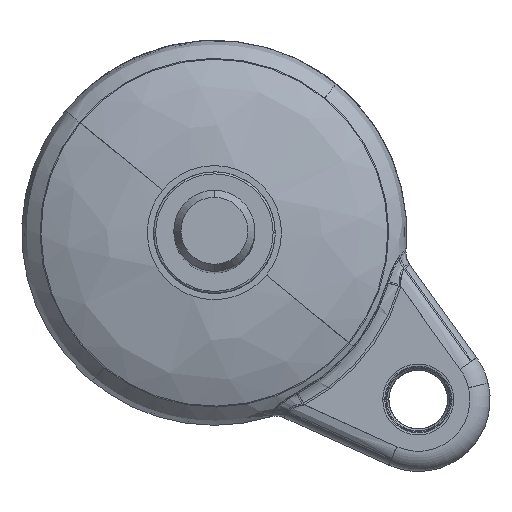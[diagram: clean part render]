
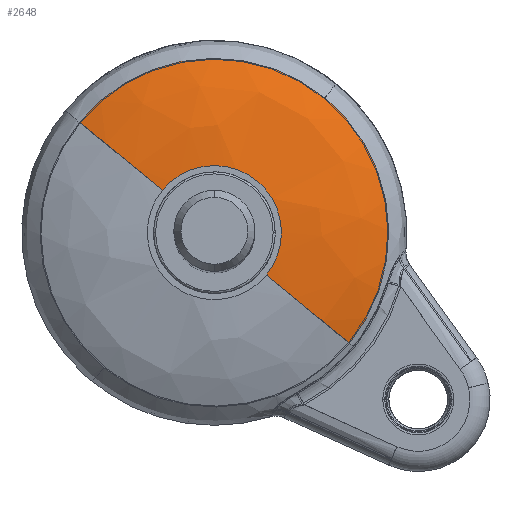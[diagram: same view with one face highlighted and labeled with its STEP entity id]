
A CAD part, top view. The second image highlights one B-rep face of the part: STEP entity #2648.
In plain terms, the highlighted free-form (B-spline) face has degree [2, 2] with [7, 5] control points.
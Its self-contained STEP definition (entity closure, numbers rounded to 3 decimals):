
#545 = CARTESIAN_POINT ( 'NONE',  ( 0., 0., -4.328 ) ) ;
#725 = CARTESIAN_POINT ( 'NONE',  ( 69.724, -57.068, -62. ) ) ;
#728 = DIRECTION ( 'NONE',  ( -0.774, 0.633, 0. ) ) ;
#776 = CARTESIAN_POINT ( 'NONE',  ( 126.792, 12.656, -62. ) ) ;
#860 = CARTESIAN_POINT ( 'NONE',  ( 23.606, -19.321, -2. ) ) ;
#1285 = DIRECTION ( 'NONE',  ( 0.774, -0.633, 0. ) ) ;
#1422 = CARTESIAN_POINT ( 'NONE',  ( -23.606, 19.321, -2. ) ) ;
#1471 = CARTESIAN_POINT ( 'NONE',  ( -33.297, 27.253, -8.158 ) ) ;
#1522 = CARTESIAN_POINT ( 'NONE',  ( 57.542, 5.744, -131.407 ) ) ;
#1548 =( BOUNDED_CURVE ( )  B_SPLINE_CURVE ( 2, ( #5848, #860, #4304 ),
 .UNSPECIFIED., .F., .T. ) 
 B_SPLINE_CURVE_WITH_KNOTS ( ( 3, 3 ),
 ( -0.198, -0.078 ),
 .UNSPECIFIED. ) 
 CURVE ( )  GEOMETRIC_REPRESENTATION_ITEM ( )  RATIONAL_B_SPLINE_CURVE ( ( 0.911, 0.899, 0.934 ) ) 
 REPRESENTATION_ITEM ( '' )  );
#1639 = CARTESIAN_POINT ( 'NONE',  ( 41.484, 50.683, -96.703 ) ) ;
#2190 = CARTESIAN_POINT ( 'NONE',  ( 0., 0., -4.328 ) ) ;
#2249 = CARTESIAN_POINT ( 'NONE',  ( 25.899, 31.643, 7.407 ) ) ;
#2293 = VERTEX_POINT ( 'NONE', #4870 ) ;
#2535 = CARTESIAN_POINT ( 'NONE',  ( 0., 0., -119.672 ) ) ;
#2589 = CARTESIAN_POINT ( 'NONE',  ( 92.167, 9.2, -27.297 ) ) ;
#2648 = ADVANCED_FACE ( 'NONE', ( #9908 ), #3551, .T. ) ;
#2678 = CIRCLE ( 'NONE', #2843, 43.028 ) ;
#2843 = AXIS2_PLACEMENT_3D ( 'NONE', #7332, #9046, #1285 ) ;
#2987 = CARTESIAN_POINT ( 'NONE',  ( 0., 0., -4.328 ) ) ;
#3043 = CARTESIAN_POINT ( 'NONE',  ( 0., 0., -4.328 ) ) ;
#3094 = CARTESIAN_POINT ( 'NONE',  ( 31.643, -25.899, 7.407 ) ) ;
#3318 = CARTESIAN_POINT ( 'NONE',  ( 31.643, -25.899, -131.407 ) ) ;
#3375 = CARTESIAN_POINT ( 'NONE',  ( 0., 0., -119.672 ) ) ;
#3421 = CARTESIAN_POINT ( 'NONE',  ( -12.807, 10.483, -2. ) ) ;
#3466 = EDGE_CURVE ( 'NONE', #9659, #2293, #6919, .T. ) ;
#3551 =( BOUNDED_SURFACE ( )  B_SPLINE_SURFACE ( 2, 2, ( 
 ( #545, #2987, #3043, #2190, #10867 ),
 ( #3094, #10015, #2249, #3987, #10313 ),
 ( #7565, #2589, #7677, #4222, #9403 ),
 ( #725, #776, #4961, #11163, #6719 ),
 ( #9514, #6665, #1639, #5023, #10142 ),
 ( #3318, #1522, #8477, #8412, #10260 ),
 ( #2535, #8649, #5937, #6779, #3375 ) ),
 .UNSPECIFIED., .F., .F., .T. ) 
 B_SPLINE_SURFACE_WITH_KNOTS ( ( 3, 2, 2, 3 ),
 ( 3, 2, 3 ),
 ( 0., 0.333, 0.667, 1. ),
 ( 0., 0.25, 0.5 ),
 .UNSPECIFIED. ) 
 GEOMETRIC_REPRESENTATION_ITEM ( )  RATIONAL_B_SPLINE_SURFACE ( (
 ( 1., 0.707, 1., 0.707, 1.),
 ( 0.816, 0.577, 0.816, 0.577, 0.816),
 ( 1., 0.707, 1., 0.707, 1.),
 ( 0.816, 0.577, 0.816, 0.577, 0.816),
 ( 1., 0.707, 1., 0.707, 1.),
 ( 0.816, 0.577, 0.816, 0.577, 0.816),
 ( 1., 0.707, 1., 0.707, 1.) ) ) 
 REPRESENTATION_ITEM ( '' )  SURFACE ( )  );
#3699 = ORIENTED_EDGE ( 'NONE', *, *, #8309, .F. ) ;
#3907 = VERTEX_POINT ( 'NONE', #8783 ) ;
#3909 =( BOUNDED_CURVE ( )  B_SPLINE_CURVE ( 2, ( #1471, #1422, #5725 ),
 .UNSPECIFIED., .F., .T. ) 
 B_SPLINE_CURVE_WITH_KNOTS ( ( 3, 3 ),
 ( -0.198, -0.078 ),
 .UNSPECIFIED. ) 
 CURVE ( )  GEOMETRIC_REPRESENTATION_ITEM ( )  RATIONAL_B_SPLINE_CURVE ( ( 0.911, 0.899, 0.934 ) ) 
 REPRESENTATION_ITEM ( '' )  );
#3987 = CARTESIAN_POINT ( 'NONE',  ( -5.743, 57.542, 7.407 ) ) ;
#4222 = CARTESIAN_POINT ( 'NONE',  ( -9.199, 92.167, -27.297 ) ) ;
#4304 = CARTESIAN_POINT ( 'NONE',  ( 12.807, -10.482, -2. ) ) ;
#4731 = CARTESIAN_POINT ( 'NONE',  ( -33.297, 27.253, -8.158 ) ) ;
#4870 = CARTESIAN_POINT ( 'NONE',  ( 12.807, -10.482, -2. ) ) ;
#4961 = CARTESIAN_POINT ( 'NONE',  ( 57.068, 69.724, -62. ) ) ;
#5023 = CARTESIAN_POINT ( 'NONE',  ( -9.199, 92.167, -96.703 ) ) ;
#5133 = DIRECTION ( 'NONE',  ( 0., 0., -1. ) ) ;
#5295 = AXIS2_PLACEMENT_3D ( 'NONE', #10198, #5133, #728 ) ;
#5649 = ORIENTED_EDGE ( 'NONE', *, *, #7338, .T. ) ;
#5725 = CARTESIAN_POINT ( 'NONE',  ( -12.807, 10.483, -2. ) ) ;
#5848 = CARTESIAN_POINT ( 'NONE',  ( 33.297, -27.253, -8.158 ) ) ;
#5937 = CARTESIAN_POINT ( 'NONE',  ( 0., 0., -119.672 ) ) ;
#6665 = CARTESIAN_POINT ( 'NONE',  ( 92.167, 9.2, -96.703 ) ) ;
#6719 = CARTESIAN_POINT ( 'NONE',  ( -69.724, 57.068, -62. ) ) ;
#6779 = CARTESIAN_POINT ( 'NONE',  ( 0., 0., -119.672 ) ) ;
#6919 = CIRCLE ( 'NONE', #5295, 16.55 ) ;
#7135 = ORIENTED_EDGE ( 'NONE', *, *, #8680, .F. ) ;
#7192 = EDGE_LOOP ( 'NONE', ( #7135, #3699, #5649, #10544 ) ) ;
#7332 = CARTESIAN_POINT ( 'NONE',  ( 0., 0., -8.158 ) ) ;
#7338 = EDGE_CURVE ( 'NONE', #9315, #9659, #3909, .T. ) ;
#7565 = CARTESIAN_POINT ( 'NONE',  ( 50.683, -41.484, -27.297 ) ) ;
#7677 = CARTESIAN_POINT ( 'NONE',  ( 41.484, 50.683, -27.297 ) ) ;
#8309 = EDGE_CURVE ( 'NONE', #9315, #3907, #2678, .T. ) ;
#8412 = CARTESIAN_POINT ( 'NONE',  ( -5.743, 57.542, -131.407 ) ) ;
#8477 = CARTESIAN_POINT ( 'NONE',  ( 25.899, 31.643, -131.407 ) ) ;
#8649 = CARTESIAN_POINT ( 'NONE',  ( 0., 0., -119.672 ) ) ;
#8680 = EDGE_CURVE ( 'NONE', #3907, #2293, #1548, .T. ) ;
#8783 = CARTESIAN_POINT ( 'NONE',  ( 33.297, -27.253, -8.158 ) ) ;
#9046 = DIRECTION ( 'NONE',  ( 0., 0., -1. ) ) ;
#9315 = VERTEX_POINT ( 'NONE', #4731 ) ;
#9403 = CARTESIAN_POINT ( 'NONE',  ( -50.683, 41.484, -27.297 ) ) ;
#9514 = CARTESIAN_POINT ( 'NONE',  ( 50.683, -41.484, -96.703 ) ) ;
#9659 = VERTEX_POINT ( 'NONE', #3421 ) ;
#9908 = FACE_OUTER_BOUND ( 'NONE', #7192, .T. ) ;
#10015 = CARTESIAN_POINT ( 'NONE',  ( 57.542, 5.744, 7.407 ) ) ;
#10142 = CARTESIAN_POINT ( 'NONE',  ( -50.683, 41.484, -96.703 ) ) ;
#10198 = CARTESIAN_POINT ( 'NONE',  ( 0., 0., -2. ) ) ;
#10260 = CARTESIAN_POINT ( 'NONE',  ( -31.643, 25.899, -131.407 ) ) ;
#10313 = CARTESIAN_POINT ( 'NONE',  ( -31.643, 25.899, 7.407 ) ) ;
#10544 = ORIENTED_EDGE ( 'NONE', *, *, #3466, .T. ) ;
#10867 = CARTESIAN_POINT ( 'NONE',  ( 0., 0., -4.328 ) ) ;
#11163 = CARTESIAN_POINT ( 'NONE',  ( -12.656, 126.792, -62. ) ) ;
